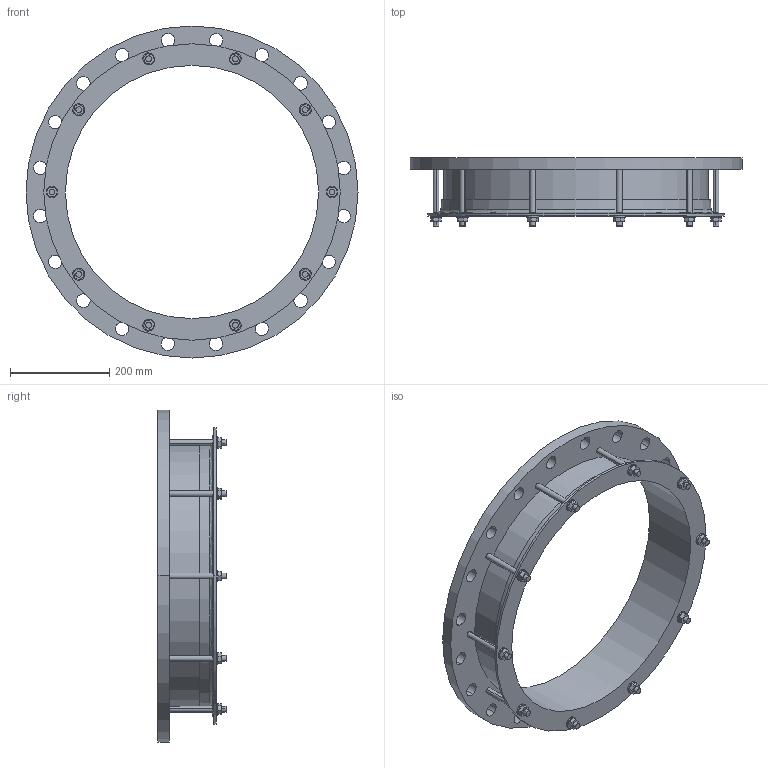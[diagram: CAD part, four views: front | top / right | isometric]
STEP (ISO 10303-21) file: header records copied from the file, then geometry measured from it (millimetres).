
FILE_DESCRIPTION((''),'2;1');
FILE_NAME('508X500PN10','2019-01-16T',('mfairey'),('Glynwed Pipe Systems'),'CREO PARAMETRIC BY PTC INC, 2016130','CREO PARAMETRIC BY PTC INC, 2016130','');
FILE_SCHEMA(('CONFIG_CONTROL_DESIGN'));
Length unit declared in the file: millimetre
Products named in the file (1): 508X500PN10
Bounding box: 670 x 137.45 x 670 mm (x, y, z)
Volume: 5628110.2 mm3; surface area: 854734.7 mm2
Topology: 1 solids, 1 shells, 208 faces, 548 edges, 364 vertices
Faces by surface type: cylinder 108, plane 94, cone 4, torus 2
Entity records: 7174 total; most frequent: CARTESIAN_POINT 1728, DIRECTION 1132, ORIENTED_EDGE 1096, EDGE_CURVE 548, AXIS2_PLACEMENT_3D 420, VERTEX_POINT 364, VECTOR 292, LINE 292
